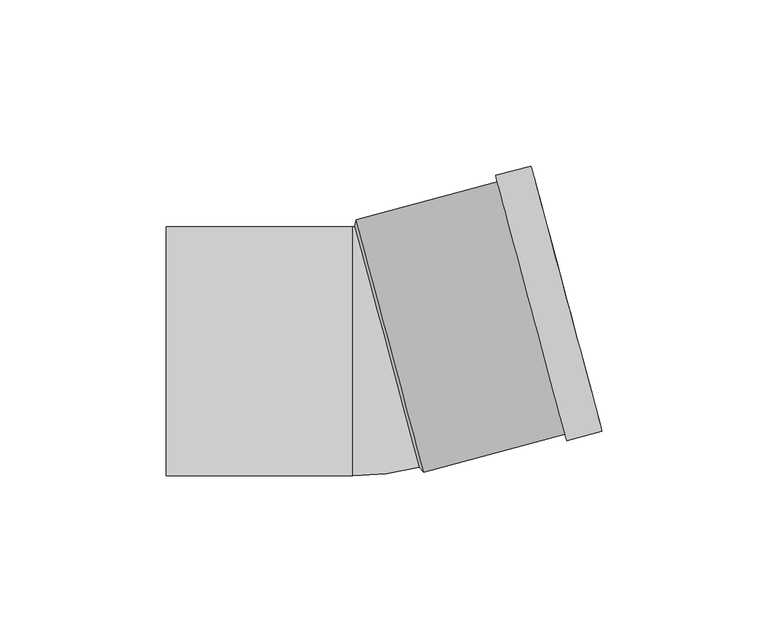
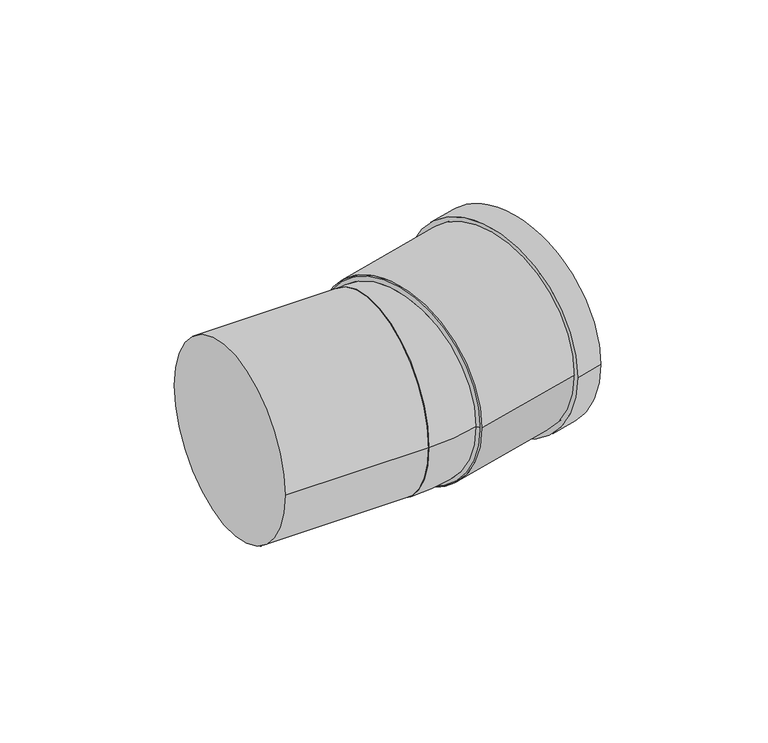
"""IFC4 building model written with IfcOpenShell, lengths in millimetres: pipe fitting geometry, Superdrain HT bend : Superdrain HT Bend."""

from ifc_helpers import new_model, si_unit, point, frame, origin, origin_2d, place, context, project, spatial, polyline, circle_curve, ellipse_curve, trimmed, segment, composite_curve, outline, extrude, source, transform, mapped, element, save
from ifc_brep_helpers import plane_surface, revolved_surface, advanced_brep


def pipe_fitting_176e569c(model_context):
    return source(origin(), model_context, "Body", "SolidModel", [
        advanced_brep(
        [(14.7285285, -34.8763595, 0.0), (-4.6828999, 37.5680775, 0.0), (-5.2, -37.5, 0.0), (-5.2, 37.5, 0.0)],
        [
            (0, 1, circle_curve(frame((5.0228143, 1.345859, 0.0), z_axis=(0.965925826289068, 0.258819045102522, 0.0), x_axis=(-0.258819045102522, 0.965925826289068, 0.0)), 37.5)),
            (1, 0, circle_curve(frame((5.0228143, 1.345859, 0.0), z_axis=(0.9659258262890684, 0.2588190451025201, 0.0), x_axis=(-0.2588190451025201, 0.9659258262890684, 0.0)), 37.5)),
            (2, 3, circle_curve(frame((-5.2, 0.0, 0.0), z_axis=(-1.0, 0.0, 0.0), x_axis=(0.0, 1.0, 0.0)), 37.5)),
            (3, 2, circle_curve(frame((-5.2, 0.0, 0.0), z_axis=(-1.0, 0.0, 0.0), x_axis=(0.0, 1.0, 0.0)), 37.5)),
            (3, 1, circle_curve(frame((-5.2, 39.4979214, 0.0), z_axis=(0.0, 0.0, 1.0), x_axis=(1.0, 0.0, 0.0)), 1.9979214)),
            (0, 2, circle_curve(frame((-5.2, 39.4979214, 0.0), z_axis=(0.0, 0.0, -1.0), x_axis=(1.0, 0.0, 0.0)), 76.9979214)),
        ],
        [
            plane_surface(frame((5.0228143, 1.345859, 0.0), z_axis=(0.965925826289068, 0.25881904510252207, 0.0), x_axis=(0.0, 0.0, -1.0))),
            plane_surface(frame((-5.2, 0.0, 0.0), z_axis=(-1.0, 0.0, 0.0), x_axis=(0.0, 0.0, -1.0))),
            revolved_surface(trimmed(ellipse_curve(frame((34.2979214, 39.4979214, 0.0), z_axis=(0.0, -1.0, 0.0), x_axis=(-1.0, 0.0, 0.0)), 37.5, 37.5), [point((-3.2020786, 39.4979214, 0.0))], [point((71.7979214, 39.4979214, 0.0))], True, "CARTESIAN"), (-5.2, 39.4979214, 0.0), (0.0, 0.0, 1.0)),
            revolved_surface(trimmed(ellipse_curve(frame((34.2979214, 39.4979214, 0.0), z_axis=(0.0, -1.0, 0.0), x_axis=(-1.0, 0.0, 0.0)), 37.5, 37.5), [point((71.7979214, 39.4979214, 0.0))], [point((-3.2020786, 39.4979214, 0.0))], True, "CARTESIAN"), (-5.2, 39.4979214, 0.0), (0.0, 0.0, 1.0)),
        ],
        [
            (0, [[1, 2]]),
            (1, [[3, 4]]),
            (2, [[-4, 5, -1, 6]]),
            (3, [[-3, -6, -2, -5]]),
        ],
    ),
        extrude(outline(composite_curve([segment(trimmed(circle_curve(origin_2d(), 39.375), [point((0.0, 39.375))], [point((0.0, -39.375))], False, "CARTESIAN"), True, "CONTINUOUS"), segment(trimmed(circle_curve(origin_2d(), 39.375), [point((0.0, -39.375))], [point((0.0, 39.375))], False, "CARTESIAN"), True, "CONTINUOUS")], self_intersect=False), holes=[composite_curve([segment(trimmed(circle_curve(origin_2d(), 37.5), [point((0.0, 37.5))], [point((0.0, -37.5))], True, "CARTESIAN"), True, "CONTINUOUS"), segment(trimmed(circle_curve(origin_2d(), 37.5), [point((0.0, -37.5))], [point((0.0, 37.5))], True, "CARTESIAN"), True, "CONTINUOUS")], self_intersect=False)]), frame((5.9887401, 1.6046781, 0.0), z_axis=(0.9659258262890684, 0.25881904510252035, 0.0), x_axis=(0.0, 0.0, 1.0)), (0.0, 0.0, 1.0), 55.0),
        extrude(outline(composite_curve([segment(trimmed(circle_curve(origin_2d(), 41.34375), [point((0.0, -41.3437499))], [point((0.0, 41.34375))], False, "CARTESIAN"), True, "CONTINUOUS"), segment(trimmed(circle_curve(origin_2d(), 41.34375), [point((0.0, 41.34375))], [point((0.0, -41.3437499))], False, "CARTESIAN"), True, "CONTINUOUS")], self_intersect=False), holes=[composite_curve([segment(trimmed(circle_curve(origin_2d(), 37.5), [point((0.0, -37.4999999))], [point((0.0, 37.5))], True, "CARTESIAN"), True, "CONTINUOUS"), segment(trimmed(circle_curve(origin_2d(), 37.5), [point((0.0, 37.5))], [point((0.0, -37.4999999))], True, "CARTESIAN"), True, "CONTINUOUS")], self_intersect=False)]), frame((48.4894765, 12.9927161, 0.0), z_axis=(0.9659258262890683, 0.2588190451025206, 0.0), x_axis=(0.0, 0.0, 1.0)), (0.0, 0.0, 1.0), 11.0),
        advanced_brep(
        [(16.17974, -36.4286513, 0.0), (-4.2022598, 39.6380075, 0.0), (14.7285285, -34.8763595, 0.0), (-4.6828999, 37.5680775, 0.0)],
        [
            (0, 1, circle_curve(frame((5.9887401, 1.6046781, 0.0), z_axis=(0.9659258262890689, 0.2588190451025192, 0.0), x_axis=(0.2588190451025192, -0.9659258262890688, 0.0)), 39.375)),
            (1, 0, circle_curve(frame((5.9887401, 1.6046781, 0.0), z_axis=(0.9659258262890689, 0.2588190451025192, 0.0), x_axis=(-0.2588190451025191, 0.9659258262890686, 0.0)), 39.375)),
            (2, 3, circle_curve(frame((5.0228143, 1.345859, 0.0), z_axis=(-0.9659258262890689, -0.2588190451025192, 0.0), x_axis=(-0.2588190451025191, 0.9659258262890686, 0.0)), 37.5)),
            (3, 2, circle_curve(frame((5.0228143, 1.345859, 0.0), z_axis=(-0.9659258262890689, -0.2588190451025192, 0.0), x_axis=(0.2588190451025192, -0.9659258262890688, 0.0)), 37.5)),
            (3, 1),
            (0, 2),
        ],
        [
            plane_surface(frame((5.9887401, 1.6046781, 0.0), z_axis=(0.9659258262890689, 0.25881904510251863, 0.0), x_axis=(0.0, 0.0, -1.0))),
            plane_surface(frame((5.0228143, 1.345859, 0.0), z_axis=(-0.9659258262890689, -0.25881904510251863, 0.0), x_axis=(0.0, 0.0, -1.0))),
            revolved_surface(polyline([(-4.6828999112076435, 37.56807754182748, 0.0), (-4.202259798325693, 39.63800750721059, 0.0)]), (-14.2957022, -3.8305219, 0.0), (0.9659258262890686, 0.25881904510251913, 0.0)),
            revolved_surface(polyline([(14.72852847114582, -34.87635942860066, 0.0), (16.179739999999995, -36.4286513, 0.0)]), (-14.2957022, -3.8305219, 0.0), (0.9659258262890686, 0.25881904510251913, 0.0)),
        ],
        [
            (0, [[1, 2]]),
            (1, [[3, 4]]),
            (2, [[-4, 5, -1, 6]]),
            (3, [[-3, -6, -2, -5]]),
        ],
    ),
        extrude(outline(composite_curve([segment(trimmed(circle_curve(origin_2d(), 37.5), [point((-37.5, 0.0))], [point((37.5, 0.0))], False, "CARTESIAN"), True, "CONTINUOUS"), segment(trimmed(circle_curve(origin_2d(), 37.5), [point((37.5, 0.0))], [point((-37.5, 0.0))], False, "CARTESIAN"), True, "CONTINUOUS")], self_intersect=False)), frame((-61.5, 0.0, 0.0), z_axis=(1.0, 0.0, 0.0), x_axis=(0.0, 1.0, 0.0)), (0.0, 0.0, 1.0), 56.3),
    ])


if __name__ == "__main__":
    model = new_model("IFC4")
    model_context = context("Model", 3, world=origin())
    ifc_project = project(units=[si_unit("LENGTHUNIT", "METRE", prefix="MILLI")], contexts=[model_context])
    site = spatial("IfcSite", under=ifc_project)
    building = spatial("IfcBuilding", under=site)
    placement = place(None, origin())
    pipe_fitting_shape = pipe_fitting_176e569c(model_context)
    element("IfcPipeFitting", 1, ObjectType="Superdrain HT bend : Superdrain HT Bend", at=placement, inside=building, context=model_context, shape_type="MappedRepresentation", body=[
        mapped(pipe_fitting_shape, transform((0.0, 0.0, 0.0), x_axis=(1.0, 0.0, 0.0), y_axis=(0.0, 1.0, 0.0), z_axis=(0.0, 0.0, 1.0))),
    ])
    save(model, "model.ifc")
